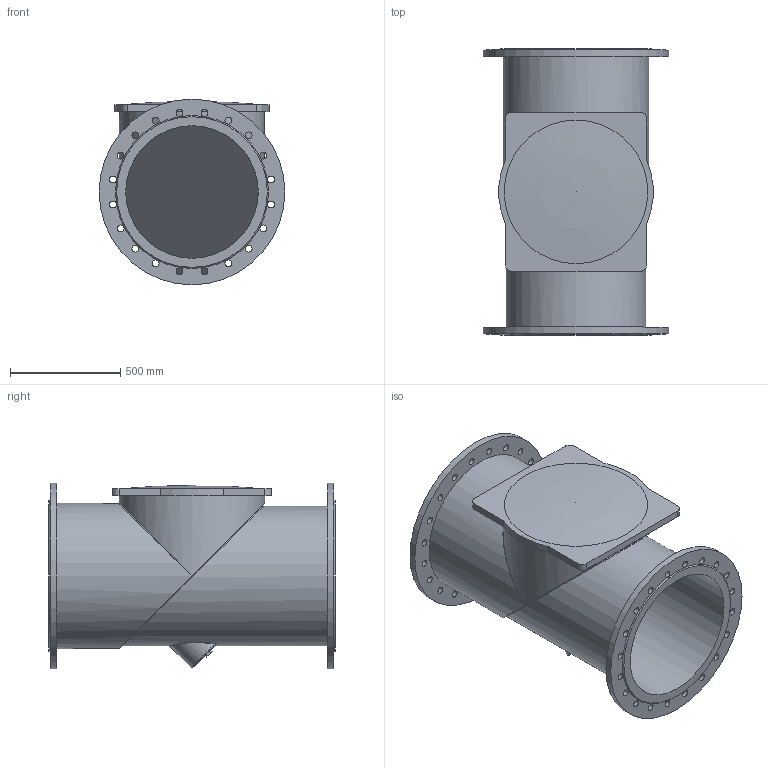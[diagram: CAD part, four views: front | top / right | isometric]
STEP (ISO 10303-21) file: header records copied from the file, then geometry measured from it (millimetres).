
FILE_DESCRIPTION(('STEP AP203'), '1');
FILE_NAME('Êëàïàí îäíîñòâîð÷àòûé îáðàòíûé ôëàíöåâûé 015F.Z DN600 PN10', '', ('UNSPECIFIED'), ('UNSPECIFIED'), 'ASCON STEP Converter 1.6', 'ASCON Math Kernel', '');
FILE_SCHEMA(('CONFIG_CONTROL_DESIGN'));
Length unit declared in the file: millimetre
Bounding box: 840 x 1295 x 840 mm (x, y, z)
Volume: 109295452.1 mm3; surface area: 7708806.1 mm2
Topology: 1 solids, 2 shells, 94 faces, 231 edges, 150 vertices
Faces by surface type: cylinder 57, plane 27, bspline 6, cone 2, torus 1, sphere 1
Full cylindrical faces by diameter (mm): 31 x40, 600 x2, 625 x1, 632 x1, 657 x2, 840 x2
Entity records: 5087 total; most frequent: CARTESIAN_POINT 2104, DIRECTION 442, ORIENTED_EDGE 352, EDGE_LOOP 237, AXIS2_PLACEMENT_3D 200, EDGE_CURVE 176, VERTEX_POINT 149, FACE_BOUND 136
